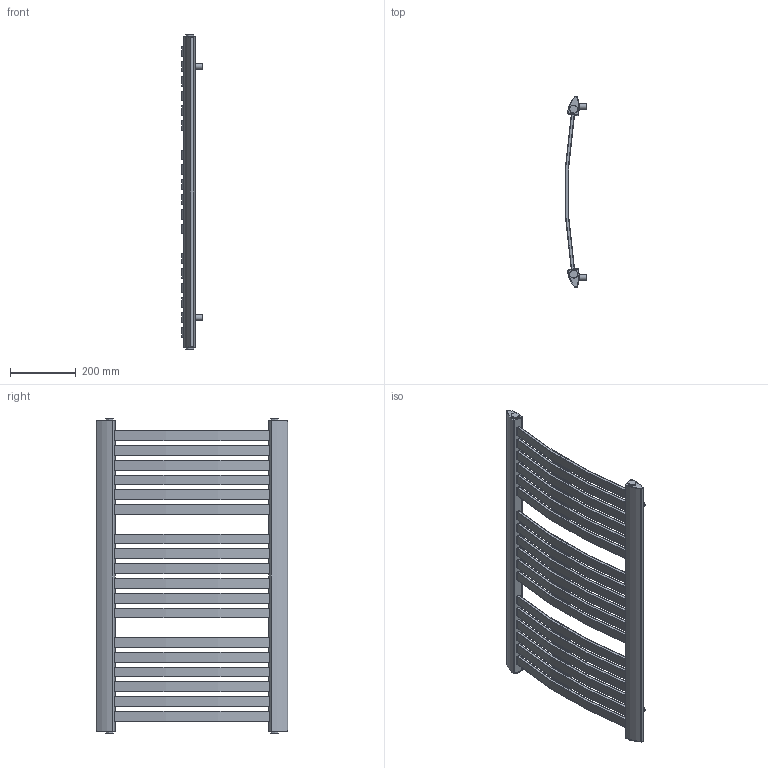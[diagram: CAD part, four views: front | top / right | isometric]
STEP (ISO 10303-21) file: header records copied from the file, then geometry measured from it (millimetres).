
FILE_DESCRIPTION(/* description */ (''),/* implementation_level */ '2;1');
FILE_NAME(/* name */ 'C:\Grzejniki\13DLUXRAD\łazienkowe\KASTOR\KASTOR 945x580.iam.stp',/* time_stamp */ '2016-06-28T17:35:10+02:00',/* author */ ('m.szydziak'),/* organization */ (''),/* preprocessor_version */ 'ST-DEVELOPER v16.5',/* originating_system */ 'Autodesk Inventor 2017',/* authorisation */ '');
FILE_SCHEMA (('AUTOMOTIVE_DESIGN { 1 0 10303 214 3 1 1 }'));
Length unit declared in the file: millimetre
Products named in the file (6): KASTOR 945x580; 30x10x1x484; 56x34x1,2x945; zaślepka 56x34 G0,5inch; uchwyt stały; korek
Assembly tree (32 placements, depth 2):
  KASTOR 945x580
    30x10x1x484  x18
    56x34x1,2x945  x2
    zaślepka 56x34 G0,5inch  x4
    uchwyt stały  x4
    korek  x4
Bounding box: 63.33 x 582.61 x 957 mm (x, y, z)
Volume: 1007208.1 mm3; surface area: 1892656.3 mm2
Topology: 32 solids, 32 shells, 896 faces, 2356 edges, 1524 vertices
Faces by surface type: plane 624, cylinder 272
Full cylindrical faces by diameter (mm): 15 x4, 18 x4, 18.631 x4, 24 x4
Entity records: 7342 total; most frequent: DIRECTION 1298, CARTESIAN_POINT 1238, ORIENTED_EDGE 1186, EDGE_CURVE 593, AXIS2_PLACEMENT_3D 455, VERTEX_POINT 395, LINE 388, VECTOR 388
